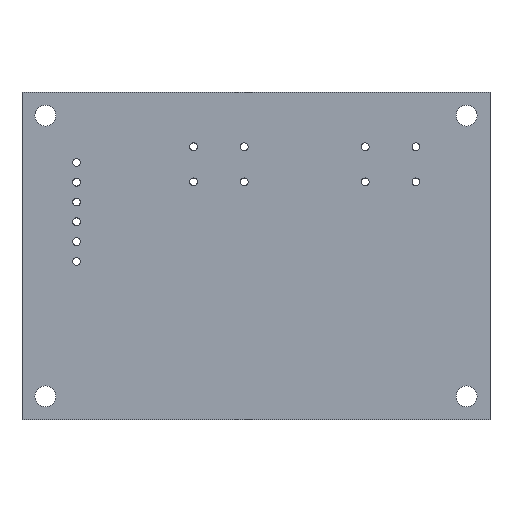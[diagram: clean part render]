
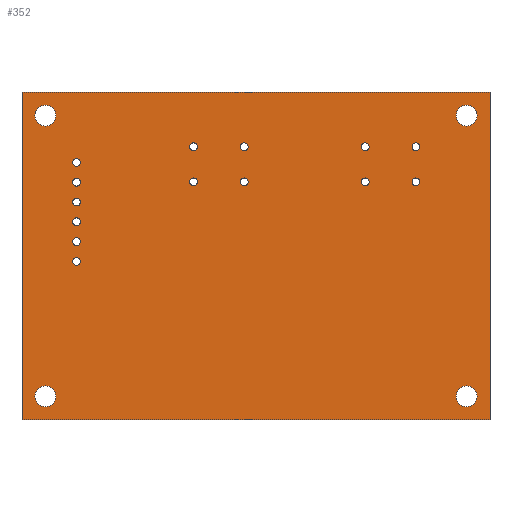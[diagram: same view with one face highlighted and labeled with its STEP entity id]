
A CAD part, top view. The second image highlights one B-rep face of the part: STEP entity #352.
In plain terms, the highlighted planar face has unit normal (0, 0, 1).
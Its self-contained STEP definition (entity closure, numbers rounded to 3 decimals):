
#42 = VERTEX_POINT('',#43);
#43 = CARTESIAN_POINT('',(60.,-42.,1.51));
#49 = EDGE_CURVE('',#42,#50,#52,.T.);
#50 = VERTEX_POINT('',#51);
#51 = CARTESIAN_POINT('',(0.,-42.,1.51));
#52 = LINE('',#53,#54);
#53 = CARTESIAN_POINT('',(60.,-42.,1.51));
#54 = VECTOR('',#55,1.);
#55 = DIRECTION('',(-1.,0.,0.));
#82 = VERTEX_POINT('',#83);
#83 = CARTESIAN_POINT('',(60.,0.,1.51));
#89 = EDGE_CURVE('',#82,#42,#90,.T.);
#90 = LINE('',#91,#92);
#91 = CARTESIAN_POINT('',(60.,0.,1.51));
#92 = VECTOR('',#93,1.);
#93 = DIRECTION('',(0.,-1.,0.));
#111 = EDGE_CURVE('',#50,#112,#114,.T.);
#112 = VERTEX_POINT('',#113);
#113 = CARTESIAN_POINT('',(0.,0.,1.51));
#114 = LINE('',#115,#116);
#115 = CARTESIAN_POINT('',(0.,-42.,1.51));
#116 = VECTOR('',#117,1.);
#117 = DIRECTION('',(0.,1.,0.));
#352 = ADVANCED_FACE('',(#353,#364,#375,#386,#397,#408,#419,#430,#441,
    #452,#463,#474,#485,#496,#507,#518,#529,#540,#551),#562,.T.);
#353 = FACE_BOUND('',#354,.T.);
#354 = EDGE_LOOP('',(#355,#356,#357,#363));
#355 = ORIENTED_EDGE('',*,*,#49,.F.);
#356 = ORIENTED_EDGE('',*,*,#89,.F.);
#357 = ORIENTED_EDGE('',*,*,#358,.F.);
#358 = EDGE_CURVE('',#112,#82,#359,.T.);
#359 = LINE('',#360,#361);
#360 = CARTESIAN_POINT('',(0.,0.,1.51));
#361 = VECTOR('',#362,1.);
#362 = DIRECTION('',(1.,0.,0.));
#363 = ORIENTED_EDGE('',*,*,#111,.F.);
#364 = FACE_BOUND('',#365,.T.);
#365 = EDGE_LOOP('',(#366));
#366 = ORIENTED_EDGE('',*,*,#367,.T.);
#367 = EDGE_CURVE('',#368,#368,#370,.T.);
#368 = VERTEX_POINT('',#369);
#369 = CARTESIAN_POINT('',(3.,-40.35,1.51));
#370 = CIRCLE('',#371,1.35);
#371 = AXIS2_PLACEMENT_3D('',#372,#373,#374);
#372 = CARTESIAN_POINT('',(3.,-39.,1.51));
#373 = DIRECTION('',(-0.,0.,-1.));
#374 = DIRECTION('',(-0.,-1.,0.));
#375 = FACE_BOUND('',#376,.T.);
#376 = EDGE_LOOP('',(#377));
#377 = ORIENTED_EDGE('',*,*,#378,.T.);
#378 = EDGE_CURVE('',#379,#379,#381,.T.);
#379 = VERTEX_POINT('',#380);
#380 = CARTESIAN_POINT('',(7.,-22.2,1.51));
#381 = CIRCLE('',#382,0.5);
#382 = AXIS2_PLACEMENT_3D('',#383,#384,#385);
#383 = CARTESIAN_POINT('',(7.,-21.7,1.51));
#384 = DIRECTION('',(-0.,0.,-1.));
#385 = DIRECTION('',(-0.,-1.,0.));
#386 = FACE_BOUND('',#387,.T.);
#387 = EDGE_LOOP('',(#388));
#388 = ORIENTED_EDGE('',*,*,#389,.T.);
#389 = EDGE_CURVE('',#390,#390,#392,.T.);
#390 = VERTEX_POINT('',#391);
#391 = CARTESIAN_POINT('',(57.,-40.35,1.51));
#392 = CIRCLE('',#393,1.35);
#393 = AXIS2_PLACEMENT_3D('',#394,#395,#396);
#394 = CARTESIAN_POINT('',(57.,-39.,1.51));
#395 = DIRECTION('',(-0.,0.,-1.));
#396 = DIRECTION('',(-0.,-1.,0.));
#397 = FACE_BOUND('',#398,.T.);
#398 = EDGE_LOOP('',(#399));
#399 = ORIENTED_EDGE('',*,*,#400,.T.);
#400 = EDGE_CURVE('',#401,#401,#403,.T.);
#401 = VERTEX_POINT('',#402);
#402 = CARTESIAN_POINT('',(7.,-19.66,1.51));
#403 = CIRCLE('',#404,0.5);
#404 = AXIS2_PLACEMENT_3D('',#405,#406,#407);
#405 = CARTESIAN_POINT('',(7.,-19.16,1.51));
#406 = DIRECTION('',(-0.,0.,-1.));
#407 = DIRECTION('',(-0.,-1.,0.));
#408 = FACE_BOUND('',#409,.T.);
#409 = EDGE_LOOP('',(#410));
#410 = ORIENTED_EDGE('',*,*,#411,.T.);
#411 = EDGE_CURVE('',#412,#412,#414,.T.);
#412 = VERTEX_POINT('',#413);
#413 = CARTESIAN_POINT('',(7.,-17.12,1.51));
#414 = CIRCLE('',#415,0.5);
#415 = AXIS2_PLACEMENT_3D('',#416,#417,#418);
#416 = CARTESIAN_POINT('',(7.,-16.62,1.51));
#417 = DIRECTION('',(-0.,0.,-1.));
#418 = DIRECTION('',(-0.,-1.,0.));
#419 = FACE_BOUND('',#420,.T.);
#420 = EDGE_LOOP('',(#421));
#421 = ORIENTED_EDGE('',*,*,#422,.T.);
#422 = EDGE_CURVE('',#423,#423,#425,.T.);
#423 = VERTEX_POINT('',#424);
#424 = CARTESIAN_POINT('',(7.,-14.58,1.51));
#425 = CIRCLE('',#426,0.5);
#426 = AXIS2_PLACEMENT_3D('',#427,#428,#429);
#427 = CARTESIAN_POINT('',(7.,-14.08,1.51));
#428 = DIRECTION('',(-0.,0.,-1.));
#429 = DIRECTION('',(-0.,-1.,0.));
#430 = FACE_BOUND('',#431,.T.);
#431 = EDGE_LOOP('',(#432));
#432 = ORIENTED_EDGE('',*,*,#433,.T.);
#433 = EDGE_CURVE('',#434,#434,#436,.T.);
#434 = VERTEX_POINT('',#435);
#435 = CARTESIAN_POINT('',(7.,-12.04,1.51));
#436 = CIRCLE('',#437,0.5);
#437 = AXIS2_PLACEMENT_3D('',#438,#439,#440);
#438 = CARTESIAN_POINT('',(7.,-11.54,1.51));
#439 = DIRECTION('',(-0.,0.,-1.));
#440 = DIRECTION('',(-0.,-1.,0.));
#441 = FACE_BOUND('',#442,.T.);
#442 = EDGE_LOOP('',(#443));
#443 = ORIENTED_EDGE('',*,*,#444,.T.);
#444 = EDGE_CURVE('',#445,#445,#447,.T.);
#445 = VERTEX_POINT('',#446);
#446 = CARTESIAN_POINT('',(22.,-12.,1.51));
#447 = CIRCLE('',#448,0.5);
#448 = AXIS2_PLACEMENT_3D('',#449,#450,#451);
#449 = CARTESIAN_POINT('',(22.,-11.5,1.51));
#450 = DIRECTION('',(-0.,0.,-1.));
#451 = DIRECTION('',(-0.,-1.,0.));
#452 = FACE_BOUND('',#453,.T.);
#453 = EDGE_LOOP('',(#454));
#454 = ORIENTED_EDGE('',*,*,#455,.T.);
#455 = EDGE_CURVE('',#456,#456,#458,.T.);
#456 = VERTEX_POINT('',#457);
#457 = CARTESIAN_POINT('',(28.5,-12.,1.51));
#458 = CIRCLE('',#459,0.5);
#459 = AXIS2_PLACEMENT_3D('',#460,#461,#462);
#460 = CARTESIAN_POINT('',(28.5,-11.5,1.51));
#461 = DIRECTION('',(-0.,0.,-1.));
#462 = DIRECTION('',(-0.,-1.,0.));
#463 = FACE_BOUND('',#464,.T.);
#464 = EDGE_LOOP('',(#465));
#465 = ORIENTED_EDGE('',*,*,#466,.T.);
#466 = EDGE_CURVE('',#467,#467,#469,.T.);
#467 = VERTEX_POINT('',#468);
#468 = CARTESIAN_POINT('',(7.,-9.5,1.51));
#469 = CIRCLE('',#470,0.5);
#470 = AXIS2_PLACEMENT_3D('',#471,#472,#473);
#471 = CARTESIAN_POINT('',(7.,-9.,1.51));
#472 = DIRECTION('',(-0.,0.,-1.));
#473 = DIRECTION('',(-0.,-1.,0.));
#474 = FACE_BOUND('',#475,.T.);
#475 = EDGE_LOOP('',(#476));
#476 = ORIENTED_EDGE('',*,*,#477,.T.);
#477 = EDGE_CURVE('',#478,#478,#480,.T.);
#478 = VERTEX_POINT('',#479);
#479 = CARTESIAN_POINT('',(3.,-4.35,1.51));
#480 = CIRCLE('',#481,1.35);
#481 = AXIS2_PLACEMENT_3D('',#482,#483,#484);
#482 = CARTESIAN_POINT('',(3.,-3.,1.51));
#483 = DIRECTION('',(-0.,0.,-1.));
#484 = DIRECTION('',(-0.,-1.,0.));
#485 = FACE_BOUND('',#486,.T.);
#486 = EDGE_LOOP('',(#487));
#487 = ORIENTED_EDGE('',*,*,#488,.T.);
#488 = EDGE_CURVE('',#489,#489,#491,.T.);
#489 = VERTEX_POINT('',#490);
#490 = CARTESIAN_POINT('',(22.,-7.5,1.51));
#491 = CIRCLE('',#492,0.5);
#492 = AXIS2_PLACEMENT_3D('',#493,#494,#495);
#493 = CARTESIAN_POINT('',(22.,-7.,1.51));
#494 = DIRECTION('',(-0.,0.,-1.));
#495 = DIRECTION('',(-0.,-1.,0.));
#496 = FACE_BOUND('',#497,.T.);
#497 = EDGE_LOOP('',(#498));
#498 = ORIENTED_EDGE('',*,*,#499,.T.);
#499 = EDGE_CURVE('',#500,#500,#502,.T.);
#500 = VERTEX_POINT('',#501);
#501 = CARTESIAN_POINT('',(28.5,-7.5,1.51));
#502 = CIRCLE('',#503,0.5);
#503 = AXIS2_PLACEMENT_3D('',#504,#505,#506);
#504 = CARTESIAN_POINT('',(28.5,-7.,1.51));
#505 = DIRECTION('',(-0.,0.,-1.));
#506 = DIRECTION('',(-0.,-1.,0.));
#507 = FACE_BOUND('',#508,.T.);
#508 = EDGE_LOOP('',(#509));
#509 = ORIENTED_EDGE('',*,*,#510,.T.);
#510 = EDGE_CURVE('',#511,#511,#513,.T.);
#511 = VERTEX_POINT('',#512);
#512 = CARTESIAN_POINT('',(44.,-12.,1.51));
#513 = CIRCLE('',#514,0.5);
#514 = AXIS2_PLACEMENT_3D('',#515,#516,#517);
#515 = CARTESIAN_POINT('',(44.,-11.5,1.51));
#516 = DIRECTION('',(-0.,0.,-1.));
#517 = DIRECTION('',(-0.,-1.,0.));
#518 = FACE_BOUND('',#519,.T.);
#519 = EDGE_LOOP('',(#520));
#520 = ORIENTED_EDGE('',*,*,#521,.T.);
#521 = EDGE_CURVE('',#522,#522,#524,.T.);
#522 = VERTEX_POINT('',#523);
#523 = CARTESIAN_POINT('',(50.5,-12.,1.51));
#524 = CIRCLE('',#525,0.5);
#525 = AXIS2_PLACEMENT_3D('',#526,#527,#528);
#526 = CARTESIAN_POINT('',(50.5,-11.5,1.51));
#527 = DIRECTION('',(-0.,0.,-1.));
#528 = DIRECTION('',(-0.,-1.,0.));
#529 = FACE_BOUND('',#530,.T.);
#530 = EDGE_LOOP('',(#531));
#531 = ORIENTED_EDGE('',*,*,#532,.T.);
#532 = EDGE_CURVE('',#533,#533,#535,.T.);
#533 = VERTEX_POINT('',#534);
#534 = CARTESIAN_POINT('',(44.,-7.5,1.51));
#535 = CIRCLE('',#536,0.5);
#536 = AXIS2_PLACEMENT_3D('',#537,#538,#539);
#537 = CARTESIAN_POINT('',(44.,-7.,1.51));
#538 = DIRECTION('',(-0.,0.,-1.));
#539 = DIRECTION('',(-0.,-1.,0.));
#540 = FACE_BOUND('',#541,.T.);
#541 = EDGE_LOOP('',(#542));
#542 = ORIENTED_EDGE('',*,*,#543,.T.);
#543 = EDGE_CURVE('',#544,#544,#546,.T.);
#544 = VERTEX_POINT('',#545);
#545 = CARTESIAN_POINT('',(50.5,-7.5,1.51));
#546 = CIRCLE('',#547,0.5);
#547 = AXIS2_PLACEMENT_3D('',#548,#549,#550);
#548 = CARTESIAN_POINT('',(50.5,-7.,1.51));
#549 = DIRECTION('',(-0.,0.,-1.));
#550 = DIRECTION('',(-0.,-1.,0.));
#551 = FACE_BOUND('',#552,.T.);
#552 = EDGE_LOOP('',(#553));
#553 = ORIENTED_EDGE('',*,*,#554,.T.);
#554 = EDGE_CURVE('',#555,#555,#557,.T.);
#555 = VERTEX_POINT('',#556);
#556 = CARTESIAN_POINT('',(57.,-4.35,1.51));
#557 = CIRCLE('',#558,1.35);
#558 = AXIS2_PLACEMENT_3D('',#559,#560,#561);
#559 = CARTESIAN_POINT('',(57.,-3.,1.51));
#560 = DIRECTION('',(-0.,0.,-1.));
#561 = DIRECTION('',(-0.,-1.,0.));
#562 = PLANE('',#563);
#563 = AXIS2_PLACEMENT_3D('',#564,#565,#566);
#564 = CARTESIAN_POINT('',(0.,0.,1.51));
#565 = DIRECTION('',(0.,0.,1.));
#566 = DIRECTION('',(1.,0.,-0.));
